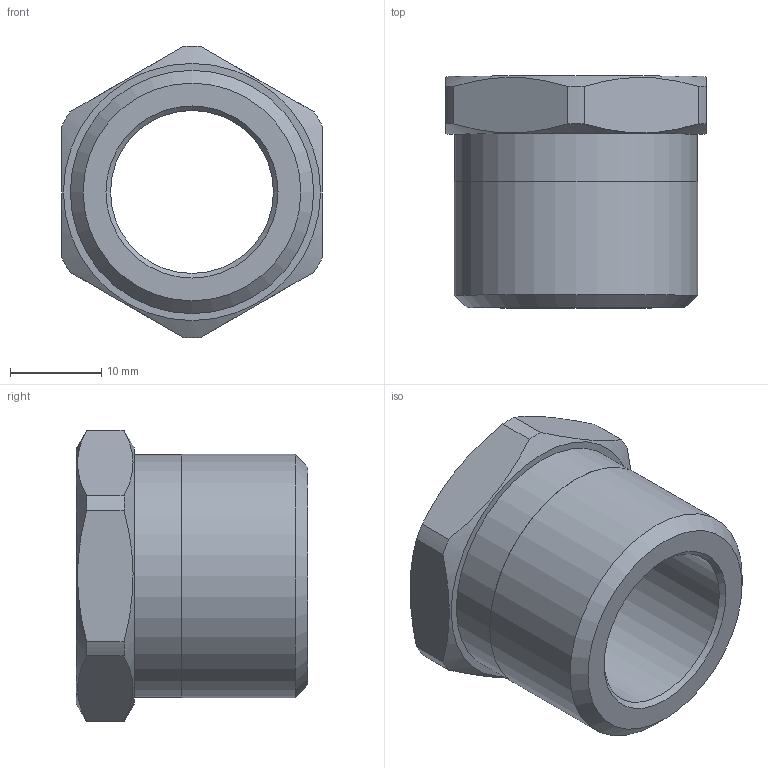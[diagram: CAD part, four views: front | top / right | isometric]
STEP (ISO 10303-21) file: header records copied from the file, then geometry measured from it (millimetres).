
FILE_DESCRIPTION(/* description */ (''),/* implementation_level */ '2;1');
FILE_NAME(/* name */ 'C:/Users/drich/Desktop/RB75-8 v1.step',/* time_stamp */ '2020-02-09T11:00:23-06:00',/* author */ (''),/* organization */ (''),/* preprocessor_version */ 'ST-DEVELOPER v18',/* originating_system */ 'Autodesk Translation Framework v8.12.0.6',/* authorisation */ '');
FILE_SCHEMA (('AUTOMOTIVE_DESIGN { 1 0 10303 214 3 1 1 }'));
Length unit declared in the file: inch
Products named in the file (1): RB75-8
Bounding box: 28.57 x 25.4 x 32 mm (x, y, z)
Volume: 8539.9 mm3; surface area: 4349.2 mm2
Topology: 1 solids, 1 shells, 26 faces, 68 edges, 47 vertices
Faces by surface type: plane 11, cylinder 10, cone 5
Full cylindrical faces by diameter (mm): 17.856 x1, 17.907 x1, 26.619 x1, 26.67 x1
Entity records: 861 total; most frequent: CARTESIAN_POINT 166, DIRECTION 145, ORIENTED_EDGE 136, EDGE_CURVE 68, AXIS2_PLACEMENT_3D 62, VERTEX_POINT 47, CIRCLE 35, EDGE_LOOP 31
